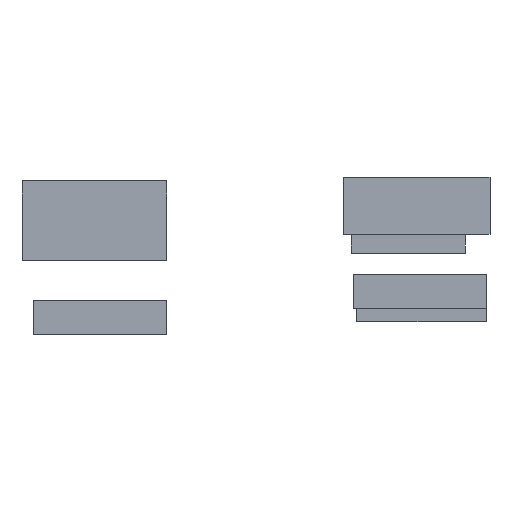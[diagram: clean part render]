
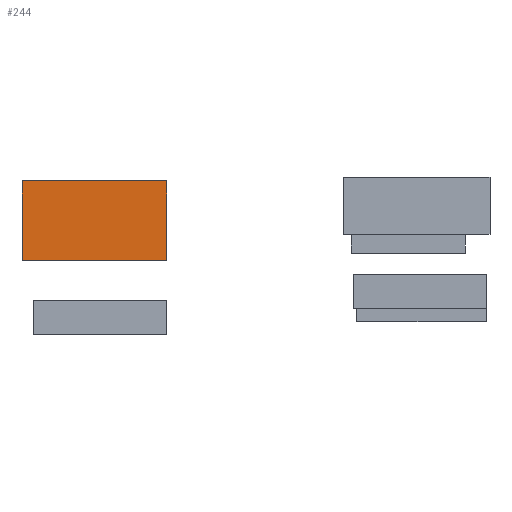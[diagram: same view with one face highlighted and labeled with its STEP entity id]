
A CAD part, left-side view. The second image highlights one B-rep face of the part: STEP entity #244.
In plain terms, the highlighted planar face has unit normal (-1, 0, 0).
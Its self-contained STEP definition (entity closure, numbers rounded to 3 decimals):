
#244 = ADVANCED_FACE('',(#245),#279,.F.);
#245 = FACE_BOUND('',#246,.F.);
#246 = EDGE_LOOP('',(#247,#257,#265,#273));
#247 = ORIENTED_EDGE('',*,*,#248,.F.);
#248 = EDGE_CURVE('',#249,#251,#253,.T.);
#249 = VERTEX_POINT('',#250);
#250 = CARTESIAN_POINT('',(4450.,450.,-1530.));
#251 = VERTEX_POINT('',#252);
#252 = CARTESIAN_POINT('',(4450.,450.,-1110.));
#253 = LINE('',#254,#255);
#254 = CARTESIAN_POINT('',(4450.,450.,-1530.));
#255 = VECTOR('',#256,1.);
#256 = DIRECTION('',(0.,0.,1.));
#257 = ORIENTED_EDGE('',*,*,#258,.T.);
#258 = EDGE_CURVE('',#249,#259,#261,.T.);
#259 = VERTEX_POINT('',#260);
#260 = CARTESIAN_POINT('',(4450.,1210.,-1530.));
#261 = LINE('',#262,#263);
#262 = CARTESIAN_POINT('',(4450.,450.,-1530.));
#263 = VECTOR('',#264,1.);
#264 = DIRECTION('',(-0.,1.,0.));
#265 = ORIENTED_EDGE('',*,*,#266,.T.);
#266 = EDGE_CURVE('',#259,#267,#269,.T.);
#267 = VERTEX_POINT('',#268);
#268 = CARTESIAN_POINT('',(4450.,1210.,-1110.));
#269 = LINE('',#270,#271);
#270 = CARTESIAN_POINT('',(4450.,1210.,-1530.));
#271 = VECTOR('',#272,1.);
#272 = DIRECTION('',(0.,0.,1.));
#273 = ORIENTED_EDGE('',*,*,#274,.F.);
#274 = EDGE_CURVE('',#251,#267,#275,.T.);
#275 = LINE('',#276,#277);
#276 = CARTESIAN_POINT('',(4450.,450.,-1110.));
#277 = VECTOR('',#278,1.);
#278 = DIRECTION('',(-0.,1.,0.));
#279 = PLANE('',#280);
#280 = AXIS2_PLACEMENT_3D('',#281,#282,#283);
#281 = CARTESIAN_POINT('',(4450.,450.,-1530.));
#282 = DIRECTION('',(1.,0.,-0.));
#283 = DIRECTION('',(0.,0.,1.));
